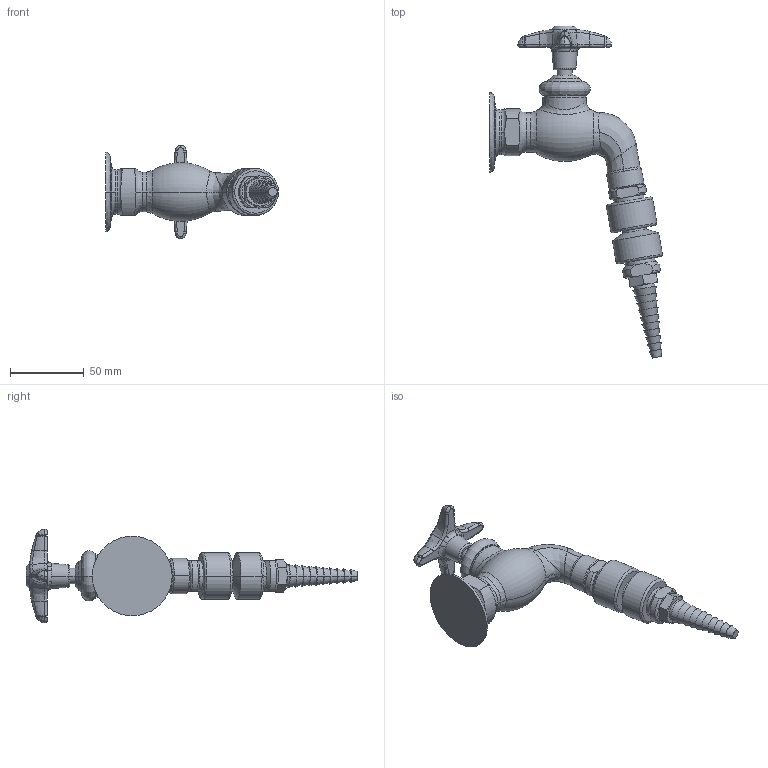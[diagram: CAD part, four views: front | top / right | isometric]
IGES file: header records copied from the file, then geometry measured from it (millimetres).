
Start section:  PTC IGES file: LWV3-A43.igs
Global section: file name: LWV3-A43.igs; native system: Creo Parametric by PTC Inc.; preprocessor: 2014500; author: usch_engrender; organization: Unknown; date: 20150910.121012; units: inch
Bounding box: 116.95 x 224.72 x 63.42 mm (x, y, z)
Volume: 165247.9 mm3; surface area: 32426 mm2
Topology: 1 solids, 3 shells, 312 faces, 692 edges, 405 vertices
Faces by surface type: bspline 198, revolution 114
